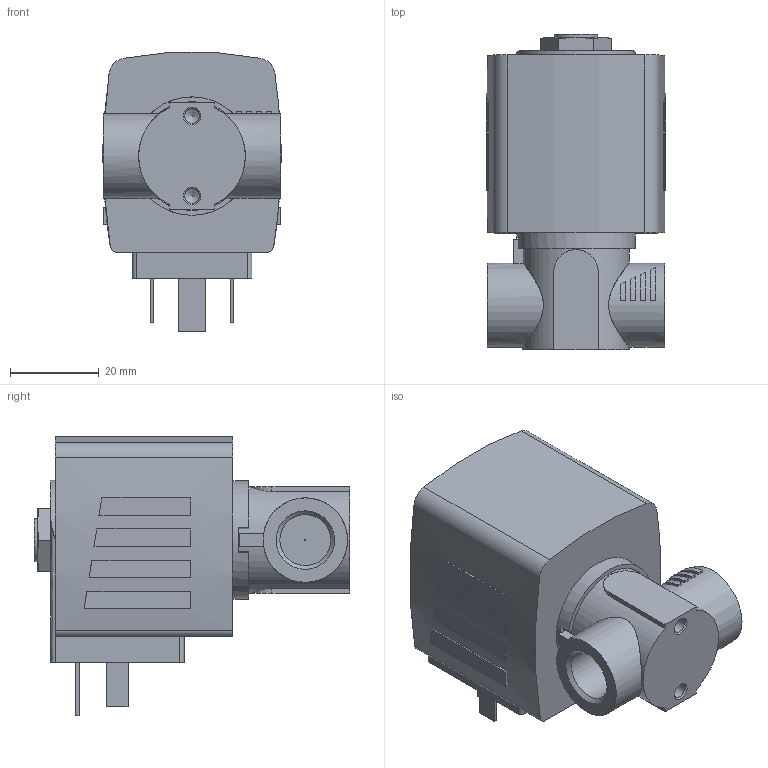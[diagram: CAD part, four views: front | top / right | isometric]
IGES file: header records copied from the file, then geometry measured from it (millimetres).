
Start section: Data from Parasolid IGES Translator 26.0.171, Copyright(c) 2006 Siemens PLM Software. All Rights Reserved.
Global section: file name: 6240-377217-2_2-way_solenoid_valve__pilot-controlled.igs; native system: By Siemens PLM Incorporated; preprocessor: XPlus GENERIC/IGES 26.0.171; author: Noname; organization: Noname; date: 20240507.213819; units: millimetre
Bounding box: 40.4 x 71 x 62.83 mm (x, y, z)
Surface area: 17082.8 mm2 (no closed solid volume)
Topology: 0 solids, 0 shells, 156 faces, 752 edges, 739 vertices
Faces by surface type: extrusion 109, revolution 47
